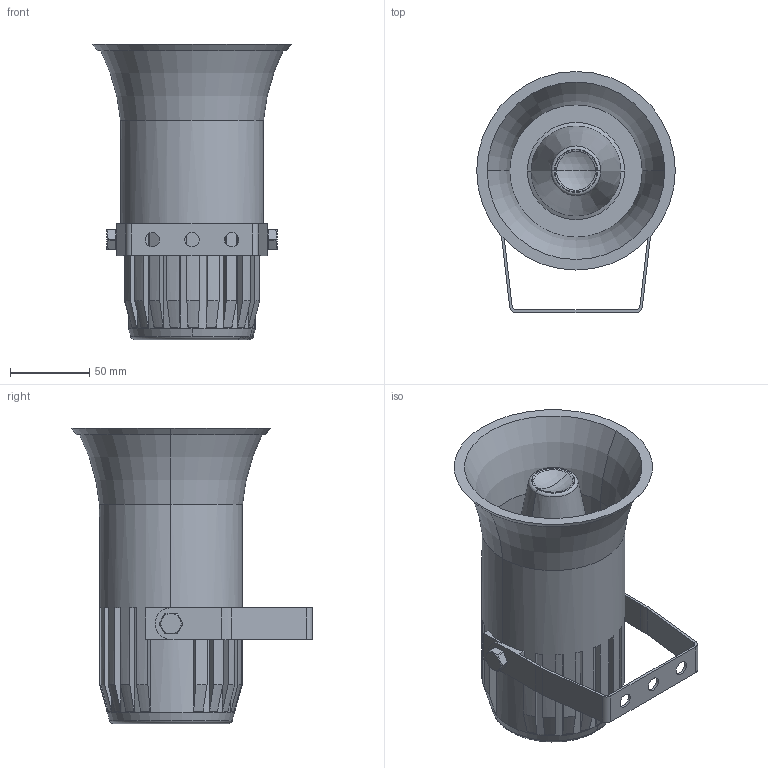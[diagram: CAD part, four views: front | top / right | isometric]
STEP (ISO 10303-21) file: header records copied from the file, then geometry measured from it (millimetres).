
FILE_DESCRIPTION (( 'STEP AP203' ), '1' );
FILE_NAME ('SRN.STEP', '2025-08-31T13:33:07', ( '' ), ( '' ), 'SwSTEP 2.0', 'SolidWorks 2019', '' );
FILE_SCHEMA (( 'CONFIG_CONTROL_DESIGN' ));
Length unit declared in the file: millimetre
Products named in the file (1): SRN
Bounding box: 125 x 151.5 x 186 mm (x, y, z)
Volume: 758157.5 mm3; surface area: 138806.4 mm2
Topology: 1 solids, 3 shells, 245 faces, 655 edges, 429 vertices
Faces by surface type: plane 128, cylinder 68, cone 31, torus 16, sphere 2
Entity records: 8325 total; most frequent: CARTESIAN_POINT 1974, DIRECTION 1346, ORIENTED_EDGE 1310, EDGE_CURVE 655, AXIS2_PLACEMENT_3D 513, VERTEX_POINT 429, LINE 320, VECTOR 320
